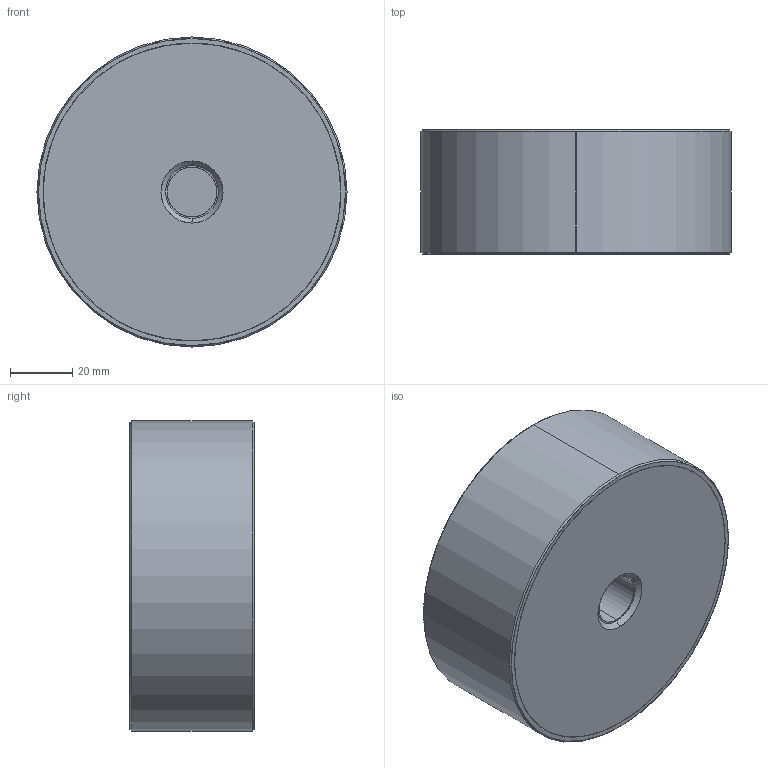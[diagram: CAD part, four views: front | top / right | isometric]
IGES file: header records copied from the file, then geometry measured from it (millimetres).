
Start section: SolidWorks IGES file using analytic representation for surfaces
Global section: file name: E:\WIXROYD 20180701\61080_v2\61080_v2_20180409_IGES\61080.W0901.igs; native system: SolidWorks 2017; preprocessor: SolidWorks 2017; author: liam_; date: 180716.214714; units: millimetre
Bounding box: 100 x 40 x 100 mm (x, y, z)
Surface area: 59474.1 mm2 (no closed solid volume)
Topology: 0 solids, 0 shells, 32 faces, 984 edges, 984 vertices
Faces by surface type: revolution 22, bspline 10
